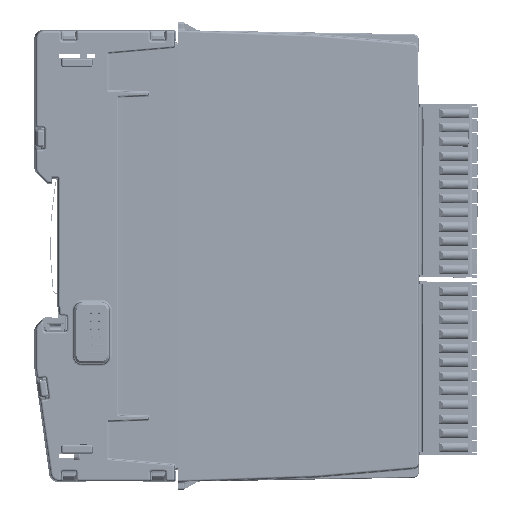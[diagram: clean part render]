
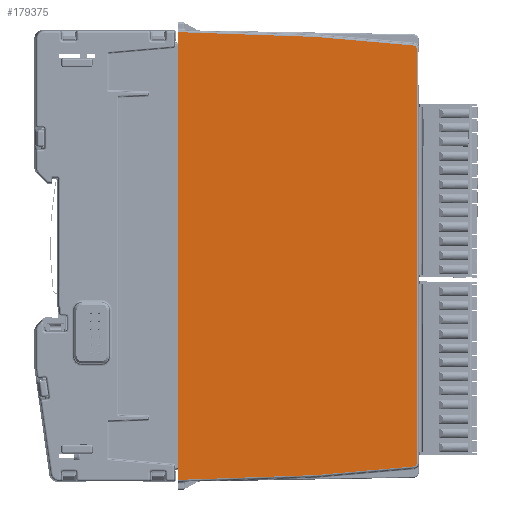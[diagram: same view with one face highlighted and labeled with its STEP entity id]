
A CAD part, left-side view. The second image highlights one B-rep face of the part: STEP entity #179375.
In plain terms, the highlighted planar face has unit normal (-1, -0.018, 0).
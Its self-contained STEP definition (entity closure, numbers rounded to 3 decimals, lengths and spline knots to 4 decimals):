
#16708=FACE_OUTER_BOUND('',#26653,.T.);
#26653=EDGE_LOOP('',(#141517,#141518,#141519,#141520,#141521,#141522,#141523,
#141524,#141525,#141526));
#42751=LINE('',#298418,#60400);
#42752=LINE('',#298420,#60401);
#42753=LINE('',#298422,#60402);
#42754=LINE('',#298424,#60403);
#42755=LINE('',#298426,#60404);
#42756=LINE('',#298430,#60405);
#42757=LINE('',#298434,#60406);
#42758=LINE('',#298435,#60407);
#60400=VECTOR('',#229364,39.3701);
#60401=VECTOR('',#229365,39.3701);
#60402=VECTOR('',#229366,39.3701);
#60403=VECTOR('',#229367,39.3701);
#60404=VECTOR('',#229368,39.3701);
#60405=VECTOR('',#229371,39.3701);
#60406=VECTOR('',#229374,39.3701);
#60407=VECTOR('',#229375,39.3701);
#66917=ELLIPSE('',#192684,0.0315,0.0315);
#66918=ELLIPSE('',#192685,0.0315,0.0315);
#78342=VERTEX_POINT('',#298416);
#78343=VERTEX_POINT('',#298417);
#78344=VERTEX_POINT('',#298419);
#78345=VERTEX_POINT('',#298421);
#78346=VERTEX_POINT('',#298423);
#78347=VERTEX_POINT('',#298425);
#78348=VERTEX_POINT('',#298427);
#78349=VERTEX_POINT('',#298429);
#78350=VERTEX_POINT('',#298431);
#78351=VERTEX_POINT('',#298433);
#100322=EDGE_CURVE('',#78342,#78343,#42751,.T.);
#100323=EDGE_CURVE('',#78344,#78343,#42752,.T.);
#100324=EDGE_CURVE('',#78344,#78345,#42753,.T.);
#100325=EDGE_CURVE('',#78345,#78346,#42754,.T.);
#100326=EDGE_CURVE('',#78346,#78347,#42755,.T.);
#100327=EDGE_CURVE('',#78347,#78348,#66917,.T.);
#100328=EDGE_CURVE('',#78348,#78349,#42756,.T.);
#100329=EDGE_CURVE('',#78349,#78350,#66918,.T.);
#100330=EDGE_CURVE('',#78350,#78351,#42757,.T.);
#100331=EDGE_CURVE('',#78351,#78342,#42758,.T.);
#141517=ORIENTED_EDGE('',*,*,#100322,.T.);
#141518=ORIENTED_EDGE('',*,*,#100323,.F.);
#141519=ORIENTED_EDGE('',*,*,#100324,.T.);
#141520=ORIENTED_EDGE('',*,*,#100325,.T.);
#141521=ORIENTED_EDGE('',*,*,#100326,.T.);
#141522=ORIENTED_EDGE('',*,*,#100327,.T.);
#141523=ORIENTED_EDGE('',*,*,#100328,.T.);
#141524=ORIENTED_EDGE('',*,*,#100329,.T.);
#141525=ORIENTED_EDGE('',*,*,#100330,.T.);
#141526=ORIENTED_EDGE('',*,*,#100331,.T.);
#161746=PLANE('',#192683);
#179375=ADVANCED_FACE('',(#16708),#161746,.T.);
#192683=AXIS2_PLACEMENT_3D('',#298415,#229362,#229363);
#192684=AXIS2_PLACEMENT_3D('',#298428,#229369,#229370);
#192685=AXIS2_PLACEMENT_3D('',#298432,#229372,#229373);
#229362=DIRECTION('center_axis',(-1.,-0.017,
0.));
#229363=DIRECTION('ref_axis',(-0.017,1.,0.));
#229364=DIRECTION('',(0.,0.,-1.));
#229365=DIRECTION('',(0.,0.,1.));
#229366=DIRECTION('',(0.,0.,-1.));
#229367=DIRECTION('',(0.017,-0.999,0.035));
#229368=DIRECTION('',(0.017,-0.996,0.087));
#229369=DIRECTION('center_axis',(-1.,-0.017,
0.));
#229370=DIRECTION('ref_axis',(0.017,-1.,0.));
#229371=DIRECTION('',(0.,0.,1.));
#229372=DIRECTION('center_axis',(-1.,-0.017,
0.));
#229373=DIRECTION('ref_axis',(0.017,-1.,0.));
#229374=DIRECTION('',(-0.017,0.996,0.087));
#229375=DIRECTION('',(-0.017,0.999,0.035));
#298415=CARTESIAN_POINT('Origin',(-0.0296,-0.489,
-2.0669));
#298416=CARTESIAN_POINT('',(-0.0227,-0.8827,0.1083));
#298417=CARTESIAN_POINT('',(-0.0227,-0.8827,-0.0312));
#298418=CARTESIAN_POINT('',(-0.0227,-0.8827,0.128));
#298419=CARTESIAN_POINT('',(-0.0227,-0.8827,-4.1027));
#298420=CARTESIAN_POINT('',(-0.0227,-0.8827,-7.5932));
#298421=CARTESIAN_POINT('',(-0.0227,-0.8827,-4.2421));
#298422=CARTESIAN_POINT('',(-0.0227,-0.8827,0.128));
#298423=CARTESIAN_POINT('',(0.0007,-2.2205,-4.1954));
#298424=CARTESIAN_POINT('',(-0.0282,-0.5654,-4.2532));
#298425=CARTESIAN_POINT('',(0.0174,-3.1772,-4.1117));
#298426=CARTESIAN_POINT('',(-0.0261,-0.6869,-4.3296));
#298427=CARTESIAN_POINT('',(0.0179,-3.2059,-4.0803));
#298428=CARTESIAN_POINT('Origin',(0.0173,-3.1744,
-4.0803));
#298429=CARTESIAN_POINT('',(0.0179,-3.2059,-0.0535));
#298430=CARTESIAN_POINT('',(0.0179,-3.2059,-0.0535));
#298431=CARTESIAN_POINT('',(0.0174,-3.1772,-0.0221));
#298432=CARTESIAN_POINT('Origin',(0.0173,-3.1744,
-0.0535));
#298433=CARTESIAN_POINT('',(0.0007,-2.2205,0.0616));
#298434=CARTESIAN_POINT('',(-0.0261,-0.6869,0.1957));
#298435=CARTESIAN_POINT('',(-0.0282,-0.5654,0.1194));
